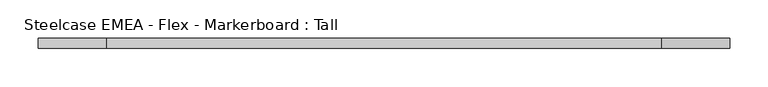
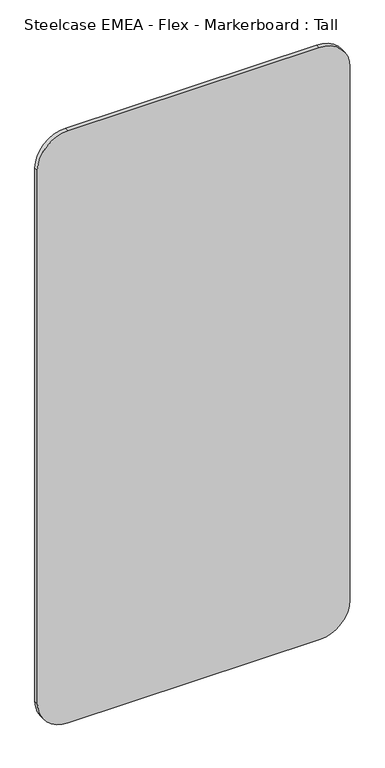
"""IFC4 building model written with IfcOpenShell, lengths in millimetres: furniture geometry, Steelcase EMEA - Flex - Markerboard : Tall."""

from ifc_helpers import new_model, si_unit, point, frame, frame_2d, origin, place, context, project, spatial, polyline, circle_curve, trimmed, segment, composite_curve, outline, extrude, source, transform, mapped, element, save


def steelcase_emea_flex_markerboard_tall_933f601b(model_context):
    return source(origin(), model_context, "Body", "SweptSolid", [
        extrude(outline(composite_curve([segment(polyline([(1800.0, 811.1), (1800.0, 88.9)]), True, "CONTINUOUS"), segment(trimmed(circle_curve(frame_2d((1711.1, 88.9)), 88.9), [point((1800.0, 88.9))], [point((1711.1, 0.0))], False, "CARTESIAN"), True, "CONTINUOUS"), segment(polyline([(1711.1, 0.0), (88.9, 0.0)]), True, "CONTINUOUS"), segment(trimmed(circle_curve(frame_2d((88.9, 88.9)), 88.9), [point((88.9, 0.0))], [point((0.0, 88.9))], False, "CARTESIAN"), True, "CONTINUOUS"), segment(polyline([(0.0, 88.9), (0.0, 811.1)]), True, "CONTINUOUS"), segment(trimmed(circle_curve(frame_2d((88.9, 811.1)), 88.9), [point((0.0, 811.1))], [point((88.9, 900.0))], False, "CARTESIAN"), True, "CONTINUOUS"), segment(polyline([(88.9, 900.0), (1711.1, 900.0)]), True, "CONTINUOUS"), segment(trimmed(circle_curve(frame_2d((1711.1, 811.1)), 88.9), [point((1711.1, 900.0))], [point((1800.0, 811.1))], False, "CARTESIAN"), True, "CONTINUOUS")], self_intersect=False)), frame((0.0, -12.6931299, 0.0), z_axis=(0.0, 1.0, 0.0), x_axis=(0.0, 0.0, 1.0)), (0.0, 0.0, 1.0), 12.6931299),
    ])


if __name__ == "__main__":
    model = new_model("IFC4")
    model_context = context("Model", 3, world=origin())
    ifc_project = project(units=[si_unit("LENGTHUNIT", "METRE", prefix="MILLI")], contexts=[model_context])
    site = spatial("IfcSite", under=ifc_project)
    building = spatial("IfcBuilding", under=site)
    placement = place(None, origin())
    steelcase_emea_flex_markerboard_tall_shape = steelcase_emea_flex_markerboard_tall_933f601b(model_context)
    element("IfcFurniture", 1, ObjectType="Steelcase EMEA - Flex - Markerboard : Tall", at=placement, inside=building, context=model_context, shape_type="MappedRepresentation", body=[
        mapped(steelcase_emea_flex_markerboard_tall_shape, transform((0.0, 0.0, 0.0), x_axis=(1.0, 0.0, 0.0), y_axis=(0.0, 1.0, 0.0), z_axis=(0.0, 0.0, 1.0))),
    ])
    save(model, "model.ifc")
